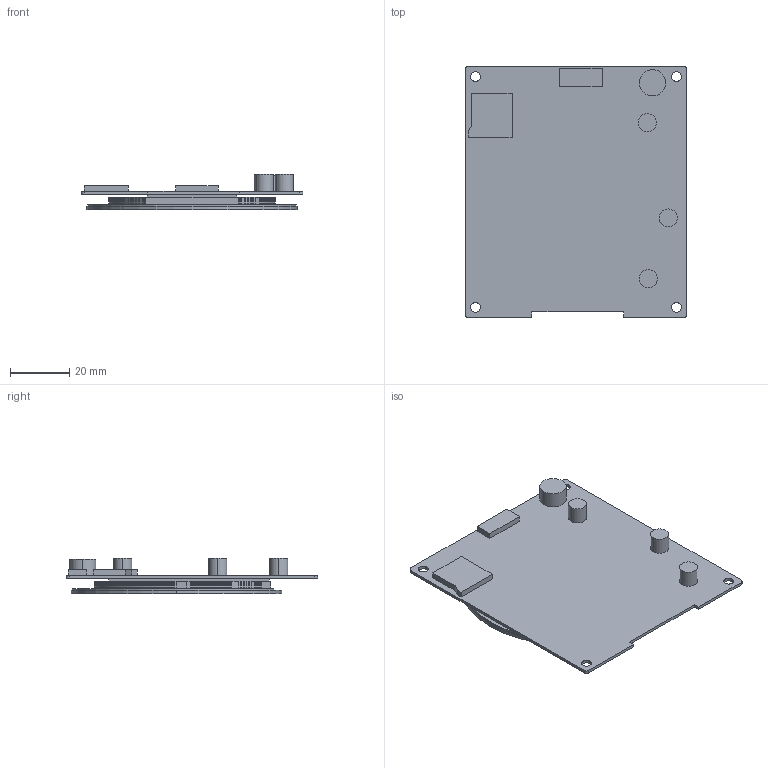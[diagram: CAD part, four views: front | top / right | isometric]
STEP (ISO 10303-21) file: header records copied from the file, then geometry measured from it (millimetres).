
FILE_DESCRIPTION((''),'2;1');
FILE_NAME('DMG48480C021_03WTC','2022-06-16T',('Administrator'),(''),'PRO/ENGINEER BY PARAMETRIC TECHNOLOGY CORPORATION, 2008380','PRO/ENGINEER BY PARAMETRIC TECHNOLOGY CORPORATION, 2008380','');
FILE_SCHEMA(('CONFIG_CONTROL_DESIGN'));
Products named in the file (1): DMG48480C021_03WTC
Bounding box: 75 x 85 x 11.95 mm (x, y, z)
Volume: 22509.5 mm3; surface area: 19882.6 mm2
Topology: 1 solids, 1 shells, 768 faces, 13022 edges, 18360 vertices
Faces by surface type: plane 743, cylinder 25
Entity records: 83661 total; most frequent: DIRECTION 18601, CARTESIAN_POINT 15301, TRIMMED_CURVE 10757, VECTOR 8981, LINE 8981, AXIS2_PLACEMENT_3D 4810, ORIENTED_EDGE 4530, CIRCLE 4041
